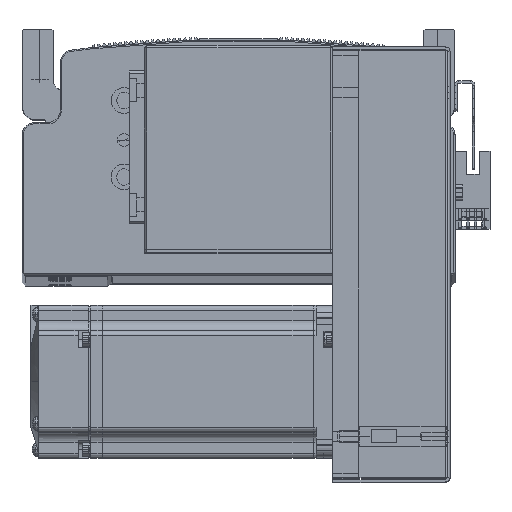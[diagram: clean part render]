
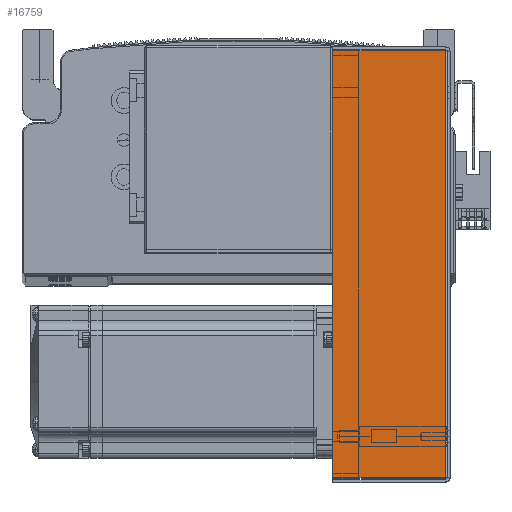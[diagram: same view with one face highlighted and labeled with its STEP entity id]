
A CAD part, top view. The second image highlights one B-rep face of the part: STEP entity #16759.
In plain terms, the highlighted planar face has unit normal (0, 0, 1) as drawn and (0, 0, -1) by its records, which use the part's own axes.
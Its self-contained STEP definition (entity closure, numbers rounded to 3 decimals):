
#709 = AXIS2_PLACEMENT_3D ( 'NONE', #89091, #89087, #89117 ) ;
#6214 = CARTESIAN_POINT ( 'NONE',  ( -83.793, 45., -40.5 ) ) ;
#6265 = CARTESIAN_POINT ( 'NONE',  ( 83.793, 45., -40.5 ) ) ;
#10269 = CARTESIAN_POINT ( 'NONE',  ( -83.793, 0.737, -40.5 ) ) ;
#10366 = CARTESIAN_POINT ( 'NONE',  ( 83.793, 0.737, -40.5 ) ) ;
#16759 = ADVANCED_FACE ( 'NONE', ( #39974 ), #89072, .F. ) ;
#22933 = LINE ( 'NONE', #51316, #22990 ) ;
#22956 = LINE ( 'NONE', #51339, #23015 ) ;
#22990 = VECTOR ( 'NONE', #51291, 1000. ) ;
#23015 = VECTOR ( 'NONE', #51343, 1000. ) ;
#23144 = VECTOR ( 'NONE', #49824, 1000. ) ;
#23153 = LINE ( 'NONE', #49835, #23144 ) ;
#23158 = VECTOR ( 'NONE', #49897, 1000. ) ;
#23196 = LINE ( 'NONE', #49850, #23158 ) ;
#39974 = FACE_OUTER_BOUND ( 'NONE', #52849, .T. ) ;
#48774 = ORIENTED_EDGE ( 'NONE', *, *, #54939, .T. ) ;
#48850 = ORIENTED_EDGE ( 'NONE', *, *, #54835, .T. ) ;
#48853 = ORIENTED_EDGE ( 'NONE', *, *, #54952, .F. ) ;
#48889 = ORIENTED_EDGE ( 'NONE', *, *, #54849, .F. ) ;
#49824 = DIRECTION ( 'NONE',  ( 0., 1., 0. ) ) ;
#49835 = CARTESIAN_POINT ( 'NONE',  ( 83.793, 0., -40.5 ) ) ;
#49850 = CARTESIAN_POINT ( 'NONE',  ( -83.793, 0., -40.5 ) ) ;
#49897 = DIRECTION ( 'NONE',  ( 0., 1., 0. ) ) ;
#51291 = DIRECTION ( 'NONE',  ( 1., 0., 0. ) ) ;
#51316 = CARTESIAN_POINT ( 'NONE',  ( 84.5, 45., -40.5 ) ) ;
#51339 = CARTESIAN_POINT ( 'NONE',  ( 0., 0.737, -40.5 ) ) ;
#51343 = DIRECTION ( 'NONE',  ( 1., 0., 0. ) ) ;
#52849 = EDGE_LOOP ( 'NONE', ( #48889, #48774, #48850, #48853 ) ) ;
#54835 = EDGE_CURVE ( 'NONE', #86820, #86787, #22933, .T. ) ;
#54849 = EDGE_CURVE ( 'NONE', #86402, #86514, #22956, .T. ) ;
#54939 = EDGE_CURVE ( 'NONE', #86402, #86820, #23196, .T. ) ;
#54952 = EDGE_CURVE ( 'NONE', #86514, #86787, #23153, .T. ) ;
#86402 = VERTEX_POINT ( 'NONE', #10269 ) ;
#86514 = VERTEX_POINT ( 'NONE', #10366 ) ;
#86787 = VERTEX_POINT ( 'NONE', #6265 ) ;
#86820 = VERTEX_POINT ( 'NONE', #6214 ) ;
#89072 = PLANE ( 'NONE',  #709 ) ;
#89087 = DIRECTION ( 'NONE',  ( 0., 0., 1. ) ) ;
#89091 = CARTESIAN_POINT ( 'NONE',  ( 0., 0., -40.5 ) ) ;
#89117 = DIRECTION ( 'NONE',  ( 0., -1., 0. ) ) ;
